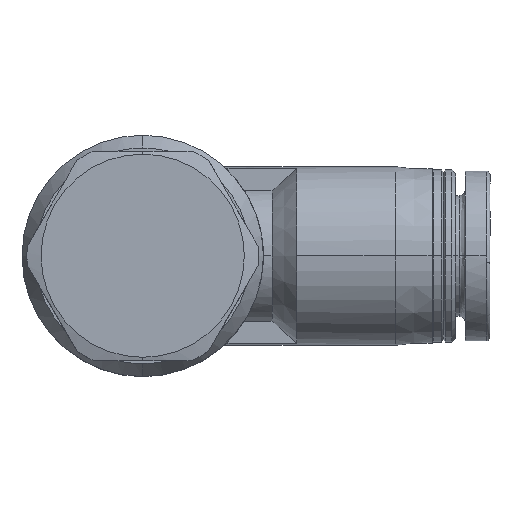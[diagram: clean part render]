
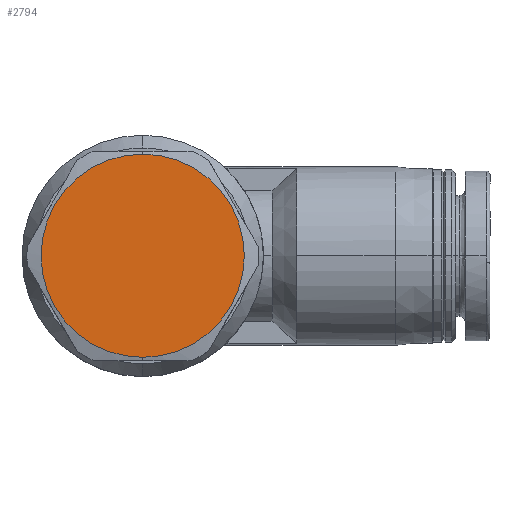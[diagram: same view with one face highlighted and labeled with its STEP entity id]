
A CAD part, top view. The second image highlights one B-rep face of the part: STEP entity #2794.
In plain terms, the highlighted planar face has unit normal (0, 0, 1).
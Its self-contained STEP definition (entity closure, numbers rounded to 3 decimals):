
#54 = CARTESIAN_POINT ( 'NONE',  ( 0., 8.25, 31.5 ) ) ;
#124 = EDGE_CURVE ( 'NONE', #2887, #1894, #3178, .T. ) ;
#599 = CARTESIAN_POINT ( 'NONE',  ( 0., -8.25, 31.5 ) ) ;
#856 = AXIS2_PLACEMENT_3D ( 'NONE', #1357, #1342, #1314 ) ;
#874 = CIRCLE ( 'NONE', #1883, 8.25 ) ;
#1026 = EDGE_CURVE ( 'NONE', #1894, #2887, #874, .T. ) ;
#1153 = PLANE ( 'NONE',  #3109 ) ;
#1187 = CARTESIAN_POINT ( 'NONE',  ( 8.75, 8.75, 31.5 ) ) ;
#1314 = DIRECTION ( 'NONE',  ( 0., 1., 0. ) ) ;
#1342 = DIRECTION ( 'NONE',  ( 0., 0., -1. ) ) ;
#1357 = CARTESIAN_POINT ( 'NONE',  ( 0., 0., 31.5 ) ) ;
#1641 = ORIENTED_EDGE ( 'NONE', *, *, #1026, .F. ) ;
#1814 = FACE_OUTER_BOUND ( 'NONE', #1821, .T. ) ;
#1821 = EDGE_LOOP ( 'NONE', ( #2443, #1641 ) ) ;
#1883 = AXIS2_PLACEMENT_3D ( 'NONE', #2906, #2722, #2709 ) ;
#1894 = VERTEX_POINT ( 'NONE', #599 ) ;
#2443 = ORIENTED_EDGE ( 'NONE', *, *, #124, .F. ) ;
#2671 = DIRECTION ( 'NONE',  ( 0., -1., 0. ) ) ;
#2709 = DIRECTION ( 'NONE',  ( 0., 1., 0. ) ) ;
#2722 = DIRECTION ( 'NONE',  ( 0., 0., -1. ) ) ;
#2770 = DIRECTION ( 'NONE',  ( 0., 0., 1. ) ) ;
#2794 = ADVANCED_FACE ( '35', ( #1814 ), #1153, .T. ) ;
#2887 = VERTEX_POINT ( 'NONE', #54 ) ;
#2906 = CARTESIAN_POINT ( 'NONE',  ( 0., 0., 31.5 ) ) ;
#3109 = AXIS2_PLACEMENT_3D ( 'NONE', #1187, #2770, #2671 ) ;
#3178 = CIRCLE ( 'NONE', #856, 8.25 ) ;
